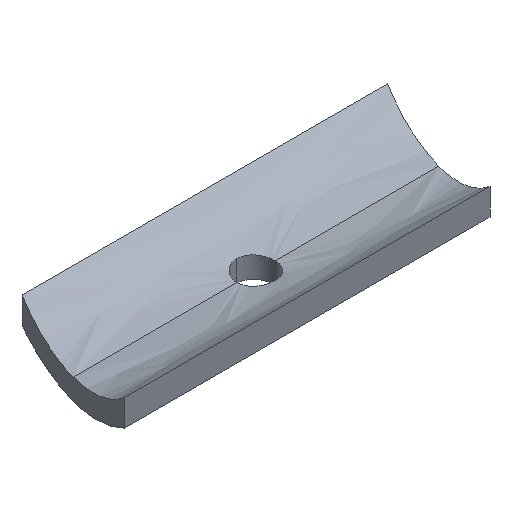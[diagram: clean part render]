
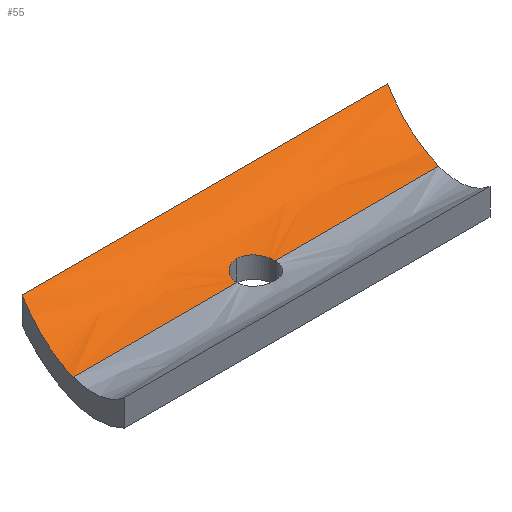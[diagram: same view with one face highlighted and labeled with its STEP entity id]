
A CAD part, isometric view. The second image highlights one B-rep face of the part: STEP entity #55.
In plain terms, the highlighted free-form (B-spline) face has degree [3, 1] with [4, 2] control points.
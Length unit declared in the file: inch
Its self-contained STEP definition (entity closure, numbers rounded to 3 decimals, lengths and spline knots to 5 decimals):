
#55=ADVANCED_FACE('',(#105),#106,.T.);
#105=FACE_OUTER_BOUND('',#190,.T.);
#106=B_SPLINE_SURFACE_WITH_KNOTS('',3,1,((#191,#192),(#193,#194),(#195,#196),(#197,#198)),.UNSPECIFIED.,.F.,.F.,.F.,(4,4),(2,2),(0.0,1.0),(0.0,1.4375),.UNSPECIFIED.);
#190=EDGE_LOOP('',(#281,#282,#283,#284,#285,#286,#287,#288,#289));
#191=CARTESIAN_POINT('',(1.4375,0.24984,-0.09533));
#192=CARTESIAN_POINT('',(0.,0.24984,-0.09533));
#193=CARTESIAN_POINT('',(1.4375,0.34597,-0.09533));
#194=CARTESIAN_POINT('',(0.,0.34597,-0.09533));
#195=CARTESIAN_POINT('',(1.4375,0.43364,-0.05917));
#196=CARTESIAN_POINT('',(0.,0.43364,-0.05917));
#197=CARTESIAN_POINT('',(1.4375,0.5,0.0003));
#198=CARTESIAN_POINT('',(0.,0.5,0.0003));
#281=ORIENTED_EDGE('',*,*,#331,.T.);
#282=ORIENTED_EDGE('',*,*,#351,.T.);
#283=ORIENTED_EDGE('',*,*,#356,.T.);
#284=ORIENTED_EDGE('',*,*,#318,.T.);
#285=ORIENTED_EDGE('',*,*,#339,.F.);
#286=ORIENTED_EDGE('',*,*,#357,.T.);
#287=ORIENTED_EDGE('',*,*,#343,.T.);
#288=ORIENTED_EDGE('',*,*,#354,.T.);
#289=ORIENTED_EDGE('',*,*,#335,.F.);
#318=EDGE_CURVE('',#372,#370,#373,.T.);
#331=EDGE_CURVE('',#394,#392,#395,.T.);
#335=EDGE_CURVE('',#394,#399,#400,.T.);
#339=EDGE_CURVE('',#405,#370,#407,.T.);
#343=EDGE_CURVE('',#409,#411,#413,.T.);
#351=EDGE_CURVE('',#392,#422,#424,.T.);
#354=EDGE_CURVE('',#411,#399,#427,.T.);
#356=EDGE_CURVE('',#422,#372,#429,.T.);
#357=EDGE_CURVE('',#405,#409,#430,.T.);
#370=VERTEX_POINT('',#458);
#372=VERTEX_POINT('',#471);
#373=B_SPLINE_CURVE_WITH_KNOTS('',3,(#472,#473,#474,#475),.UNSPECIFIED.,.F.,.F.,(4,4),(0.0,0.00016),.UNSPECIFIED.);
#392=VERTEX_POINT('',#533);
#394=VERTEX_POINT('',#536);
#395=B_SPLINE_CURVE_WITH_KNOTS('',3,(#537,#538,#539,#540),.UNSPECIFIED.,.F.,.F.,(4,4),(0.0,0.00016),.UNSPECIFIED.);
#399=VERTEX_POINT('',#566);
#400=LINE('',#567,#568);
#405=VERTEX_POINT('',#581);
#407=LINE('',#588,#589);
#409=VERTEX_POINT('',#591);
#411=VERTEX_POINT('',#594);
#413=LINE('',#597,#598);
#422=VERTEX_POINT('',#620);
#424=B_SPLINE_CURVE_WITH_KNOTS('',3,(#623,#624,#625,#626,#627,#628,#629,#630,#631,#632,#633,#634),.UNSPECIFIED.,.F.,.F.,(4,2,2,2,2,4),(0.0,0.02593,0.05197,0.07905,0.0931,0.10757),.UNSPECIFIED.);
#427=B_SPLINE_CURVE_WITH_KNOTS('',3,(#638,#639,#640,#641,#642,#643),.UNSPECIFIED.,.F.,.F.,(4,2,4),(-0.28345,-0.14449,-0.0),.UNSPECIFIED.);
#429=B_SPLINE_CURVE_WITH_KNOTS('',3,(#645,#646,#647,#648,#649,#650,#651,#652,#653,#654,#655,#656),.UNSPECIFIED.,.F.,.F.,(4,2,2,2,2,4),(0.0,0.02591,0.05195,0.07904,0.09309,0.10757),.UNSPECIFIED.);
#430=B_SPLINE_CURVE_WITH_KNOTS('',3,(#657,#658,#659,#660,#661,#662),.UNSPECIFIED.,.F.,.F.,(4,2,4),(-0.28265,-0.13796,-0.0),.UNSPECIFIED.);
#458=CARTESIAN_POINT('',(0.78674,0.24984,-0.09533));
#471=CARTESIAN_POINT('',(0.78674,0.25,-0.09533));
#472=CARTESIAN_POINT('',(0.78674,0.25,-0.09533));
#473=CARTESIAN_POINT('',(0.78674,0.24995,-0.09533));
#474=CARTESIAN_POINT('',(0.78674,0.2499,-0.09533));
#475=CARTESIAN_POINT('',(0.78674,0.24984,-0.09533));
#533=CARTESIAN_POINT('',(0.65075,0.25,-0.09533));
#536=CARTESIAN_POINT('',(0.65075,0.24984,-0.09533));
#537=CARTESIAN_POINT('',(0.65075,0.24984,-0.09533));
#538=CARTESIAN_POINT('',(0.65075,0.2499,-0.09533));
#539=CARTESIAN_POINT('',(0.65075,0.24995,-0.09533));
#540=CARTESIAN_POINT('',(0.65075,0.25,-0.09533));
#566=CARTESIAN_POINT('',(0.06695,0.24984,-0.09533));
#567=CARTESIAN_POINT('',(1.4375,0.24984,-0.09533));
#568=VECTOR('',#674,1.0);
#581=CARTESIAN_POINT('',(1.37047,0.24984,-0.09533));
#588=CARTESIAN_POINT('',(1.4375,0.24984,-0.09533));
#589=VECTOR('',#675,1.0);
#591=CARTESIAN_POINT('',(1.4375,0.5,0.0003));
#594=CARTESIAN_POINT('',(0.13398,0.5,0.0003));
#597=CARTESIAN_POINT('',(1.4375,0.5,0.0003));
#598=VECTOR('',#678,1.0);
#620=CARTESIAN_POINT('',(0.71875,0.318,-0.08916));
#623=CARTESIAN_POINT('',(0.65075,0.25,-0.09533));
#624=CARTESIAN_POINT('',(0.65075,0.25864,-0.09533));
#625=CARTESIAN_POINT('',(0.65236,0.26713,-0.09503));
#626=CARTESIAN_POINT('',(0.65874,0.28317,-0.09396));
#627=CARTESIAN_POINT('',(0.66345,0.29051,-0.09321));
#628=CARTESIAN_POINT('',(0.67555,0.30327,-0.09162));
#629=CARTESIAN_POINT('',(0.68295,0.30852,-0.09079));
#630=CARTESIAN_POINT('',(0.69543,0.31407,-0.08986));
#631=CARTESIAN_POINT('',(0.69987,0.31551,-0.08961));
#632=CARTESIAN_POINT('',(0.70914,0.3175,-0.08925));
#633=CARTESIAN_POINT('',(0.71393,0.318,-0.08916));
#634=CARTESIAN_POINT('',(0.71875,0.318,-0.08916));
#638=CARTESIAN_POINT('',(0.13398,0.5,0.0003));
#639=CARTESIAN_POINT('',(0.12494,0.46627,-0.02993));
#640=CARTESIAN_POINT('',(0.11456,0.42754,-0.05369));
#641=CARTESIAN_POINT('',(0.09171,0.34227,-0.08686));
#642=CARTESIAN_POINT('',(0.07941,0.29637,-0.09533));
#643=CARTESIAN_POINT('',(0.06695,0.24984,-0.09533));
#645=CARTESIAN_POINT('',(0.71875,0.318,-0.08916));
#646=CARTESIAN_POINT('',(0.72739,0.318,-0.08916));
#647=CARTESIAN_POINT('',(0.73586,0.31639,-0.08946));
#648=CARTESIAN_POINT('',(0.75189,0.31002,-0.09055));
#649=CARTESIAN_POINT('',(0.75923,0.30531,-0.09131));
#650=CARTESIAN_POINT('',(0.772,0.29322,-0.09291));
#651=CARTESIAN_POINT('',(0.77726,0.28581,-0.09372));
#652=CARTESIAN_POINT('',(0.7828,0.27334,-0.09463));
#653=CARTESIAN_POINT('',(0.78425,0.26889,-0.09489));
#654=CARTESIAN_POINT('',(0.78624,0.25961,-0.09524));
#655=CARTESIAN_POINT('',(0.78674,0.25482,-0.09533));
#656=CARTESIAN_POINT('',(0.78674,0.25,-0.09533));
#657=CARTESIAN_POINT('',(1.37047,0.24984,-0.09533));
#658=CARTESIAN_POINT('',(1.38299,0.29657,-0.09533));
#659=CARTESIAN_POINT('',(1.39534,0.34266,-0.08679));
#660=CARTESIAN_POINT('',(1.41818,0.42788,-0.05349));
#661=CARTESIAN_POINT('',(1.4285,0.46642,-0.0298));
#662=CARTESIAN_POINT('',(1.4375,0.5,0.0003));
#674=DIRECTION('',(-1.0,0.,0.));
#675=DIRECTION('',(-1.0,0.,0.));
#678=DIRECTION('',(-1.0,0.,0.));
